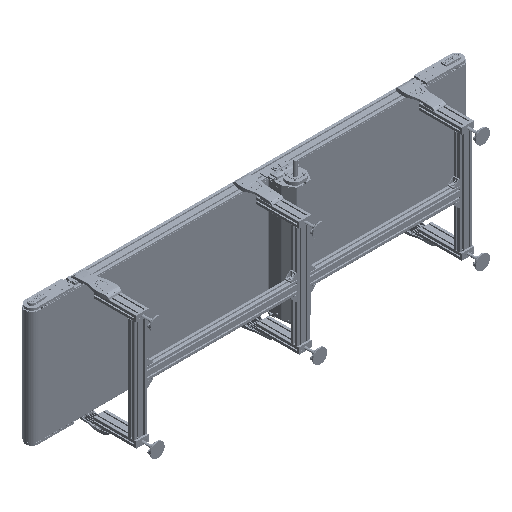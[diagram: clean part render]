
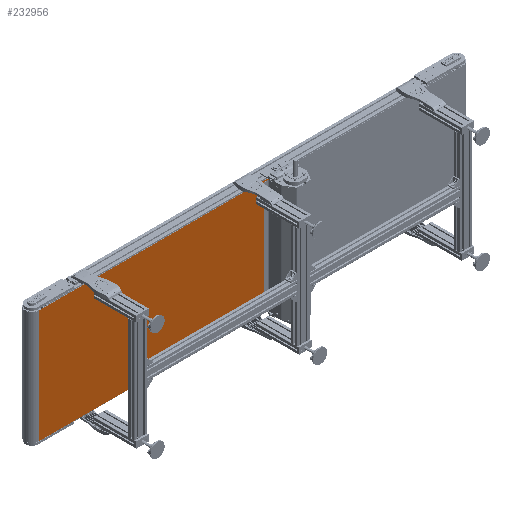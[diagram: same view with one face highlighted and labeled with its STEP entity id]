
A CAD part, isometric view. The second image highlights one B-rep face of the part: STEP entity #232956.
In plain terms, the highlighted planar face has unit normal (0, -1, 0).
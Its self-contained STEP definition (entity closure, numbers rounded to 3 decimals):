
#21111 = AXIS2_PLACEMENT_3D ( 'NONE', #84882, #278207, #83478 ) ;
#22774 = CARTESIAN_POINT ( 'NONE',  ( 140., -49.5, 400. ) ) ;
#23723 = PLANE ( 'NONE',  #21111 ) ;
#23743 = EDGE_LOOP ( 'NONE', ( #114821, #246277, #274794, #250134 ) ) ;
#26493 = EDGE_CURVE ( 'NONE', #31602, #59767, #145909, .T. ) ;
#31602 = VERTEX_POINT ( 'NONE', #237309 ) ;
#59767 = VERTEX_POINT ( 'NONE', #166989 ) ;
#68405 = EDGE_CURVE ( 'NONE', #31602, #91598, #217247, .T. ) ;
#79256 = VERTEX_POINT ( 'NONE', #209963 ) ;
#80163 = VECTOR ( 'NONE', #272104, 1000. ) ;
#83478 = DIRECTION ( 'NONE',  ( -1., 0., 0. ) ) ;
#84882 = CARTESIAN_POINT ( 'NONE',  ( -1500., -49.5, 400. ) ) ;
#84933 = VECTOR ( 'NONE', #276280, 1000. ) ;
#87888 = CARTESIAN_POINT ( 'NONE',  ( -1500., -49.5, 400. ) ) ;
#91598 = VERTEX_POINT ( 'NONE', #259819 ) ;
#104848 = FACE_OUTER_BOUND ( 'NONE', #23743, .T. ) ;
#109477 = DIRECTION ( 'NONE',  ( 0., 0., -1. ) ) ;
#114821 = ORIENTED_EDGE ( 'NONE', *, *, #254672, .T. ) ;
#141733 = CARTESIAN_POINT ( 'NONE',  ( -1500., -49.5, 400. ) ) ;
#145909 = LINE ( 'NONE', #141733, #181462 ) ;
#157776 = LINE ( 'NONE', #22774, #265493 ) ;
#164108 = LINE ( 'NONE', #229435, #84933 ) ;
#165816 = DIRECTION ( 'NONE',  ( 0., 0., -1. ) ) ;
#166989 = CARTESIAN_POINT ( 'NONE',  ( -1500., -49.5, -400. ) ) ;
#181462 = VECTOR ( 'NONE', #165816, 1000. ) ;
#209963 = CARTESIAN_POINT ( 'NONE',  ( 140., -49.5, -400. ) ) ;
#217247 = LINE ( 'NONE', #87888, #80163 ) ;
#229435 = CARTESIAN_POINT ( 'NONE',  ( -1500., -49.5, -400. ) ) ;
#232956 = ADVANCED_FACE ( 'NONE', ( #104848 ), #23723, .F. ) ;
#237309 = CARTESIAN_POINT ( 'NONE',  ( -1500., -49.5, 400. ) ) ;
#246277 = ORIENTED_EDGE ( 'NONE', *, *, #281022, .F. ) ;
#250134 = ORIENTED_EDGE ( 'NONE', *, *, #26493, .T. ) ;
#254672 = EDGE_CURVE ( 'NONE', #59767, #79256, #164108, .T. ) ;
#259819 = CARTESIAN_POINT ( 'NONE',  ( 140., -49.5, 400. ) ) ;
#265493 = VECTOR ( 'NONE', #109477, 1000. ) ;
#272104 = DIRECTION ( 'NONE',  ( 1., 0., 0. ) ) ;
#274794 = ORIENTED_EDGE ( 'NONE', *, *, #68405, .F. ) ;
#276280 = DIRECTION ( 'NONE',  ( 1., 0., 0. ) ) ;
#278207 = DIRECTION ( 'NONE',  ( 0., 1., 0. ) ) ;
#281022 = EDGE_CURVE ( 'NONE', #91598, #79256, #157776, .T. ) ;
